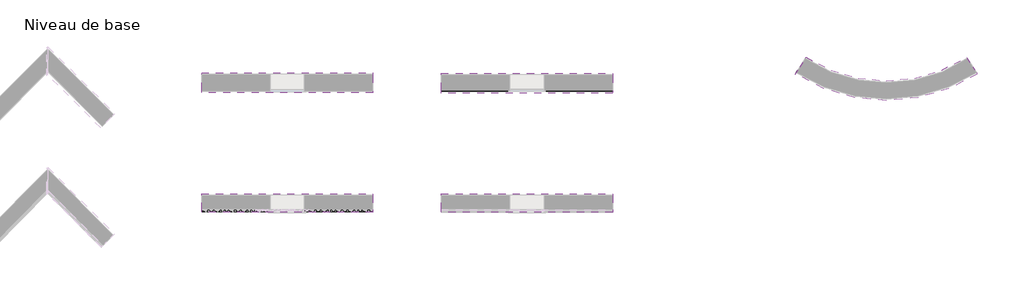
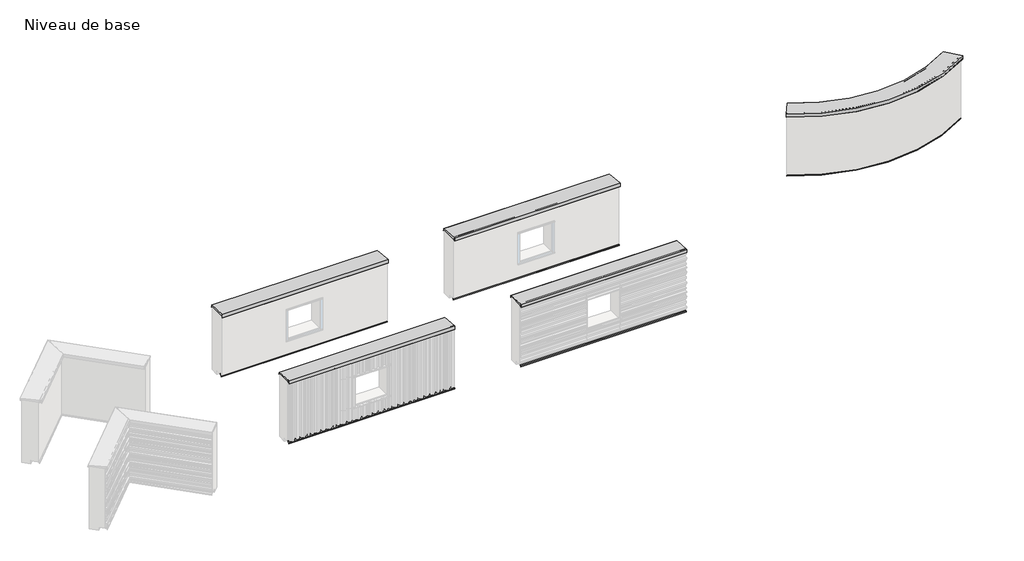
# One storey, part 12 of 12: 10 proxies.
"""IFC4 building model written with IfcOpenShell, lengths in millimetres."""

from ifc_helpers import new_model, si_unit, frame, origin, place, context, project, spatial, polyline, circle_curve, outline, extrude, faceted_brep, element, save
from ifc_brep_helpers import plane_surface, cylinder_surface, revolved_surface, advanced_brep

model = new_model("IFC4")

# Units and contexts
model_context = context("Model", 3, world=origin())
ifc_project = project(units=[si_unit("LENGTHUNIT", "METRE", prefix="MILLI")], contexts=[model_context])

# Site, building, storey
site = spatial("IfcSite", under=ifc_project)
building = spatial("IfcBuilding", under=site)
storey = spatial("IfcBuildingStorey", under=building, Name="Niveau de base", Elevation=0.0)

# Proxies
placement = place(None, origin())
element("IfcBuildingElementProxy", 1, Name="Wall Sweeps", at=placement, inside=storey, context=model_context, shape_type="SweptSolid", body=[
    extrude(outline(polyline([(44478.0286976, 1980.4303772), (44478.0286976, 2084.3696738), (45049.6644303, 2034.2673856), (45049.6644303, 1985.4349362), (45059.9781388, 1975.1212277), (45059.271032, 1974.4141209), (45048.6644303, 1985.0207227), (45048.6644303, 2033.3383964), (45017.7785953, 2036.0405569), (45017.7785953, 2000.0), (44525.7785953, 2000.0), (44525.7785953, 2079.176115), (44479.0261962, 2083.2664199), (44478.7991188, 1981.2007984), (44491.7000368, 1994.1017164), (44492.4071436, 1993.3946096), (44479.4429112, 1980.4303772), (44478.0286976, 1980.4303772)])), frame((15057.0295763, 0.0, 0.0), z_axis=(1.0, 0.0, 0.0), x_axis=(0.0, 1.0, 0.0)), (0.0, 0.0, 1.0), 5000.0),
])
element("IfcBuildingElementProxy", 2, Name="Wall Sweeps", at=placement, inside=storey, context=model_context, shape_type="Brep", body=[
    faceted_brep([(15057.0295763, 44585.7785953, 130.0), (15057.0295763, 44586.7785953, 130.0), (15057.0295763, 44586.7785953, 100.0), (15057.0295763, 44586.7785953, 99.4012185), (15057.0295763, 44535.7785953, 94.9392966), (15057.0295763, 44535.7785953, 62.75208), (15057.0295763, 44534.7785953, 62.75208), (15057.0295763, 44534.7785953, 95.5380782), (15057.0295763, 44585.7785953, 100.0), (20057.0295763, 44585.7785953, 130.0), (20057.0295763, 44585.7785953, 100.0), (20057.0295763, 44534.7785953, 95.5380782), (20057.0295763, 44534.7785953, 62.75208), (20057.0295763, 44535.7785953, 62.75208), (20057.0295763, 44535.7785953, 94.9392966), (20057.0295763, 44586.7785953, 99.4012185), (20057.0295763, 44586.7785953, 100.0), (20057.0295763, 44586.7785953, 130.0)], [[[0, 1, 2, 3, 4, 5, 6, 7, 8]], [[9, 10, 11, 12, 13, 14, 15, 16, 17]], [[1, 0, 9, 17]], [[3, 2, 1, 17, 16, 15]], [[4, 3, 15, 14]], [[5, 4, 14, 13]], [[6, 5, 13, 12]], [[7, 6, 12, 11]], [[8, 7, 11, 10]], [[0, 8, 10, 9]]]),
])
element("IfcBuildingElementProxy", 3, Name="Wall Sweeps", at=placement, inside=storey, context=model_context, shape_type="AdvancedBrep", body=[
    advanced_brep(
    [(32398.6247846, 45024.3984741, 1980.4303772), (32398.6247846, 45024.3984741, 2084.3696738), (32706.8796636, 45505.7988692, 2034.2673856), (32706.8796636, 45505.7988692, 1985.4349362), (32712.4413365, 45514.4845113, 1975.1212277), (32712.0600288, 45513.8890246, 1974.4141209), (32706.340413, 45504.9567239, 1985.0207227), (32706.340413, 45504.9567239, 2033.3383964), (32689.6852098, 45478.9463604, 2036.0405569), (32689.6852098, 45478.9463604, 2000.0), (32424.3739428, 45064.6108302, 2000.0), (32424.3739428, 45064.6108302, 2079.176115), (32399.1626862, 45025.2385129, 2083.2664199), (32399.0402346, 45025.0472808, 1981.2007984), (32405.9970616, 45035.9117293, 1994.1017164), (32406.3783694, 45036.5072161, 1993.3946096), (32399.3874, 45025.5894475, 1980.4303772), (37715.434368, 45024.3984741, 1980.4303772), (37714.6717526, 45025.5894475, 1980.4303772), (37707.6807832, 45036.5072161, 1993.3946096), (37708.0620909, 45035.9117293, 1994.1017164), (37715.0189179, 45025.0472808, 1981.2007984), (37714.8964664, 45025.2385129, 2083.2664199), (37689.6852098, 45064.6108302, 2079.176115), (37689.6852098, 45064.6108302, 2000.0), (37424.3739428, 45478.9463604, 2000.0), (37424.3739428, 45478.9463604, 2036.0405569), (37407.7187395, 45504.9567239, 2033.3383964), (37407.7187395, 45504.9567239, 1985.0207227), (37401.9991238, 45513.8890246, 1974.4141209), (37401.6178161, 45514.4845113, 1975.1212277), (37407.179489, 45505.7988692, 1985.4349362), (37407.179489, 45505.7988692, 2034.2673856), (37715.434368, 45024.3984741, 2084.3696738)],
    [
        (0, 1),
        (1, 2),
        (2, 3),
        (3, 4),
        (4, 5),
        (5, 6),
        (6, 7),
        (7, 8),
        (8, 9),
        (9, 10),
        (10, 11),
        (11, 12),
        (12, 13),
        (13, 14),
        (14, 15),
        (15, 16),
        (16, 0),
        (17, 18),
        (18, 19),
        (19, 20),
        (20, 21),
        (21, 22),
        (22, 23),
        (23, 24),
        (24, 25),
        (25, 26),
        (26, 27),
        (27, 28),
        (28, 29),
        (29, 30),
        (30, 31),
        (31, 32),
        (32, 33),
        (33, 17),
        (33, 1, circle_curve(frame((35057.0295763, 49176.0184624, 2084.3696738), z_axis=(0.0, 0.0, -1.0), x_axis=(-0.5392505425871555, -0.8421453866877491, 0.0)), 4929.8138468)),
        (0, 17, circle_curve(frame((35057.0295763, 49176.0184624, 1980.4303772), z_axis=(0.0, 0.0, 1.0), x_axis=(-0.5392505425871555, -0.8421453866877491, 0.0)), 4929.8138468)),
        (32, 2, circle_curve(frame((35057.0295763, 49176.0184624, 2034.2673856), z_axis=(0.0, 0.0, -1.0), x_axis=(-0.5392505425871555, -0.8421453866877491, 0.0)), 4358.1781141)),
        (31, 3, circle_curve(frame((35057.0295763, 49176.0184624, 1985.4349362), z_axis=(0.0, 0.0, -1.0), x_axis=(-0.5392505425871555, -0.8421453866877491, 0.0)), 4358.1781141)),
        (30, 4, circle_curve(frame((35057.0295763, 49176.0184624, 1975.1212277), z_axis=(0.0, 0.0, -1.0), x_axis=(-0.5392505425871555, -0.8421453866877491, 0.0)), 4347.8644056)),
        (29, 5, circle_curve(frame((35057.0295763, 49176.0184624, 1974.4141209), z_axis=(0.0, 0.0, -1.0), x_axis=(-0.5392505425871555, -0.8421453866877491, 0.0)), 4348.5715124)),
        (28, 6, circle_curve(frame((35057.0295763, 49176.0184624, 1985.0207227), z_axis=(0.0, 0.0, -1.0), x_axis=(-0.5392505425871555, -0.8421453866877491, 0.0)), 4359.1781141)),
        (27, 7, circle_curve(frame((35057.0295763, 49176.0184624, 2033.3383964), z_axis=(0.0, 0.0, -1.0), x_axis=(-0.5392505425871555, -0.8421453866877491, 0.0)), 4359.1781141)),
        (26, 8, circle_curve(frame((35057.0295763, 49176.0184624, 2036.0405569), z_axis=(0.0, 0.0, -1.0), x_axis=(-0.5392505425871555, -0.8421453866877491, 0.0)), 4390.0639491)),
        (25, 9, circle_curve(frame((35057.0295763, 49176.0184624, 2000.0), z_axis=(0.0, 0.0, -1.0), x_axis=(-0.5392505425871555, -0.8421453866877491, 0.0)), 4390.0639491)),
        (24, 10, circle_curve(frame((35057.0295763, 49176.0184624, 2000.0), z_axis=(0.0, 0.0, -1.0), x_axis=(-0.5392505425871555, -0.8421453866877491, 0.0)), 4882.0639491)),
        (23, 11, circle_curve(frame((35057.0295763, 49176.0184624, 2079.176115), z_axis=(0.0, 0.0, -1.0), x_axis=(-0.5392505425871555, -0.8421453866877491, 0.0)), 4882.0639491)),
        (22, 12, circle_curve(frame((35057.0295763, 49176.0184624, 2083.2664199), z_axis=(0.0, 0.0, -1.0), x_axis=(-0.5392505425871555, -0.8421453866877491, 0.0)), 4928.8163482)),
        (21, 13, circle_curve(frame((35057.0295763, 49176.0184624, 1981.2007984), z_axis=(0.0, 0.0, -1.0), x_axis=(-0.5392505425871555, -0.8421453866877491, 0.0)), 4929.0434255)),
        (20, 14, circle_curve(frame((35057.0295763, 49176.0184624, 1994.1017164), z_axis=(0.0, 0.0, -1.0), x_axis=(-0.5392505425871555, -0.8421453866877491, 0.0)), 4916.1425076)),
        (19, 15, circle_curve(frame((35057.0295763, 49176.0184624, 1993.3946096), z_axis=(0.0, 0.0, -1.0), x_axis=(-0.5392505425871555, -0.8421453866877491, 0.0)), 4915.4354008)),
        (18, 16, circle_curve(frame((35057.0295763, 49176.0184624, 1980.4303772), z_axis=(0.0, 0.0, -1.0), x_axis=(-0.5392505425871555, -0.8421453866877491, 0.0)), 4928.3996332)),
    ],
    [
        plane_surface(frame((35057.0295763, 49176.0184624, 2000.0), z_axis=(-0.8421453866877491, 0.5392505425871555, 0.0), x_axis=(-0.5392505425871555, -0.8421453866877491, 0.0))),
        plane_surface(frame((35057.0295763, 49176.0184624, 2000.0), z_axis=(0.8421453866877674, 0.539250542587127, 0.0), x_axis=(0.539250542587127, -0.8421453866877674, 0.0))),
        cylinder_surface(frame((35057.0295763, 49176.0184624, 2000.0), z_axis=(0.0, 0.0, 1.0), x_axis=(-0.5392505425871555, -0.8421453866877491, 0.0)), 4929.8138468),
        revolved_surface(polyline([(32398.6247846, 45024.3984741, 2084.3696738), (32706.8796636, 45505.7988692, 2034.2673856)]), (35057.0295763, 49176.0184624, 2000.0), (0.0, 0.0, 1.0)),
        revolved_surface(polyline([(32706.87966358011, 45505.79886924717, 2034.2673856), (32706.87966358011, 45505.79886924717, 1985.4349362)]), (35057.0295763, 49176.0184624, 2000.0), (0.0, 0.0, 1.0)),
        revolved_surface(polyline([(32706.8796636, 45505.7988692, 1985.4349362), (32712.4413365, 45514.4845113, 1975.1212277)]), (35057.0295763, 49176.0184624, 2000.0), (0.0, 0.0, 1.0)),
        revolved_surface(polyline([(32712.4413365, 45514.4845113, 1975.1212277), (32712.0600288, 45513.8890246, 1974.4141209)]), (35057.0295763, 49176.0184624, 2000.0), (0.0, 0.0, 1.0)),
        revolved_surface(polyline([(32712.0600288, 45513.8890246, 1974.4141209), (32706.340413, 45504.9567239, 1985.0207227)]), (35057.0295763, 49176.0184624, 2000.0), (0.0, 0.0, 1.0)),
        cylinder_surface(frame((35057.0295763, 49176.0184624, 2000.0), z_axis=(0.0, 0.0, 1.0), x_axis=(-0.5392505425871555, -0.8421453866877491, 0.0)), 4359.1781141),
        revolved_surface(polyline([(32706.340413, 45504.9567239, 2033.3383964), (32689.6852098, 45478.9463604, 2036.0405569)]), (35057.0295763, 49176.0184624, 2000.0), (0.0, 0.0, 1.0)),
        revolved_surface(polyline([(32689.685209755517, 45478.946360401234, 2036.0405569), (32689.685209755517, 45478.946360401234, 2000.0)]), (35057.0295763, 49176.0184624, 2000.0), (0.0, 0.0, 1.0)),
        plane_surface(frame((35057.0295763, 49176.0184624, 2000.0), z_axis=(0.0, 0.0, -1.0), x_axis=(-0.5392505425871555, -0.8421453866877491, 0.0))),
        cylinder_surface(frame((35057.0295763, 49176.0184624, 2000.0), z_axis=(0.0, 0.0, 1.0), x_axis=(-0.5392505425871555, -0.8421453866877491, 0.0)), 4882.0639491),
        revolved_surface(polyline([(32424.3739428, 45064.6108302, 2079.176115), (32399.1626862, 45025.2385129, 2083.2664199)]), (35057.0295763, 49176.0184624, 2000.0), (0.0, 0.0, 1.0)),
        revolved_surface(polyline([(32399.1626862, 45025.2385129, 2083.2664199), (32399.0402346, 45025.0472808, 1981.2007984)]), (35057.0295763, 49176.0184624, 2000.0), (0.0, 0.0, 1.0)),
        revolved_surface(polyline([(32399.0402346, 45025.0472808, 1981.2007984), (32405.9970616, 45035.9117293, 1994.1017164)]), (35057.0295763, 49176.0184624, 2000.0), (0.0, 0.0, 1.0)),
        revolved_surface(polyline([(32405.9970616, 45035.9117293, 1994.1017164), (32406.3783694, 45036.5072161, 1993.3946096)]), (35057.0295763, 49176.0184624, 2000.0), (0.0, 0.0, 1.0)),
        revolved_surface(polyline([(32406.3783694, 45036.5072161, 1993.3946096), (32399.3874, 45025.5894475, 1980.4303772)]), (35057.0295763, 49176.0184624, 2000.0), (0.0, 0.0, 1.0)),
        plane_surface(frame((35057.0295763, 49176.0184624, 1980.4303772), z_axis=(0.0, 0.0, -1.0), x_axis=(-0.5392505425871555, -0.8421453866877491, 0.0))),
    ],
    [
        (0, [[1, 2, 3, 4, 5, 6, 7, 8, 9, 10, 11, 12, 13, 14, 15, 16, 17]]),
        (1, [[18, 19, 20, 21, 22, 23, 24, 25, 26, 27, 28, 29, 30, 31, 32, 33, 34]]),
        (2, [[35, -1, 36, -34]]),
        (3, [[37, -2, -35, -33]]),
        (4, [[38, -3, -37, -32]]),
        (5, [[39, -4, -38, -31]]),
        (6, [[40, -5, -39, -30]]),
        (7, [[41, -6, -40, -29]]),
        (8, [[42, -7, -41, -28]]),
        (9, [[43, -8, -42, -27]]),
        (10, [[44, -9, -43, -26]]),
        (11, [[45, -10, -44, -25]]),
        (12, [[46, -11, -45, -24]]),
        (13, [[47, -12, -46, -23]]),
        (14, [[48, -13, -47, -22]]),
        (15, [[49, -14, -48, -21]]),
        (16, [[50, -15, -49, -20]]),
        (17, [[51, -16, -50, -19]]),
        (18, [[-36, -17, -51, -18]]),
    ],
),
])
element("IfcBuildingElementProxy", 4, Name="Wall Sweeps", at=placement, inside=storey, context=model_context, shape_type="AdvancedBrep", body=[
    advanced_brep(
    [(32456.7289754, 45115.1395534, 130.0), (32457.2682259, 45115.9816988, 130.0), (32457.2682259, 45115.9816988, 100.0), (32457.2682259, 45115.9816988, 99.4012185), (32429.7664482, 45073.032284, 94.9392966), (32429.7664482, 45073.032284, 62.75208), (32429.2271977, 45072.1901386, 62.75208), (32429.2271977, 45072.1901386, 95.5380782), (32456.7289754, 45115.1395534, 100.0), (37657.3301772, 45115.1395534, 130.0), (37657.3301772, 45115.1395534, 100.0), (37684.8319549, 45072.1901386, 95.5380782), (37684.8319549, 45072.1901386, 62.75208), (37684.2927043, 45073.032284, 62.75208), (37684.2927043, 45073.032284, 94.9392966), (37656.7909267, 45115.9816988, 99.4012185), (37656.7909267, 45115.9816988, 100.0), (37656.7909267, 45115.9816988, 130.0)],
    [
        (0, 1),
        (1, 2),
        (2, 3),
        (3, 4),
        (4, 5),
        (5, 6),
        (6, 7),
        (7, 8),
        (8, 0),
        (9, 10),
        (10, 11),
        (11, 12),
        (12, 13),
        (13, 14),
        (14, 15),
        (15, 16),
        (16, 17),
        (17, 9),
        (17, 1, circle_curve(frame((35057.0295763, 49176.0184624, 130.0), z_axis=(0.0, 0.0, -1.0), x_axis=(-0.5392505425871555, -0.8421453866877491, 0.0)), 4821.0639491)),
        (0, 9, circle_curve(frame((35057.0295763, 49176.0184624, 130.0), z_axis=(0.0, 0.0, 1.0), x_axis=(-0.5392505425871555, -0.8421453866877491, 0.0)), 4822.0639491)),
        (15, 3, circle_curve(frame((35057.0295763, 49176.0184624, 99.4012185), z_axis=(0.0, 0.0, -1.0), x_axis=(-0.5392505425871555, -0.8421453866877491, 0.0)), 4821.0639491)),
        (14, 4, circle_curve(frame((35057.0295763, 49176.0184624, 94.9392966), z_axis=(0.0, 0.0, -1.0), x_axis=(-0.5392505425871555, -0.8421453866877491, 0.0)), 4872.0639491)),
        (13, 5, circle_curve(frame((35057.0295763, 49176.0184624, 62.75208), z_axis=(0.0, 0.0, -1.0), x_axis=(-0.5392505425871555, -0.8421453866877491, 0.0)), 4872.0639491)),
        (12, 6, circle_curve(frame((35057.0295763, 49176.0184624, 62.75208), z_axis=(0.0, 0.0, -1.0), x_axis=(-0.5392505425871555, -0.8421453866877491, 0.0)), 4873.0639491)),
        (11, 7, circle_curve(frame((35057.0295763, 49176.0184624, 95.5380782), z_axis=(0.0, 0.0, -1.0), x_axis=(-0.5392505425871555, -0.8421453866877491, 0.0)), 4873.0639491)),
        (10, 8, circle_curve(frame((35057.0295763, 49176.0184624, 100.0), z_axis=(0.0, 0.0, -1.0), x_axis=(-0.5392505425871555, -0.8421453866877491, 0.0)), 4822.0639491)),
    ],
    [
        plane_surface(frame((35057.0295763, 49176.0184624, 100.0), z_axis=(-0.8421453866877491, 0.5392505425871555, 0.0), x_axis=(-0.5392505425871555, -0.8421453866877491, 0.0))),
        plane_surface(frame((35057.0295763, 49176.0184624, 100.0), z_axis=(0.8421453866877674, 0.539250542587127, 0.0), x_axis=(0.539250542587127, -0.8421453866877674, 0.0))),
        plane_surface(frame((35057.0295763, 49176.0184624, 130.0), z_axis=(0.0, 0.0, 1.0), x_axis=(-0.5392505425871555, -0.8421453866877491, 0.0))),
        revolved_surface(polyline([(32457.268225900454, 45115.98169873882, 130.0), (32457.268225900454, 45115.98169873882, 99.4012185)]), (35057.0295763, 49176.0184624, 100.0), (0.0, 0.0, 1.0)),
        revolved_surface(polyline([(32457.2682259, 45115.9816988, 99.4012185), (32429.7664482, 45073.032284, 94.9392966)]), (35057.0295763, 49176.0184624, 100.0), (0.0, 0.0, 1.0)),
        revolved_surface(polyline([(32429.766448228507, 45073.03228401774, 94.9392966), (32429.766448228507, 45073.03228401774, 62.75208)]), (35057.0295763, 49176.0184624, 100.0), (0.0, 0.0, 1.0)),
        plane_surface(frame((35057.0295763, 49176.0184624, 62.75208), z_axis=(0.0, 0.0, -1.0), x_axis=(-0.5392505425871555, -0.8421453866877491, 0.0))),
        cylinder_surface(frame((35057.0295763, 49176.0184624, 100.0), z_axis=(0.0, 0.0, 1.0), x_axis=(-0.5392505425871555, -0.8421453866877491, 0.0)), 4873.0639491),
        revolved_surface(polyline([(32429.2271977, 45072.1901386, 95.5380782), (32456.7289754, 45115.1395534, 100.0)]), (35057.0295763, 49176.0184624, 100.0), (0.0, 0.0, 1.0)),
        cylinder_surface(frame((35057.0295763, 49176.0184624, 100.0), z_axis=(0.0, 0.0, 1.0), x_axis=(-0.5392505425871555, -0.8421453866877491, 0.0)), 4822.0639491),
    ],
    [
        (0, [[1, 2, 3, 4, 5, 6, 7, 8, 9]]),
        (1, [[10, 11, 12, 13, 14, 15, 16, 17, 18]]),
        (2, [[19, -1, 20, -18]]),
        (3, [[21, -3, -2, -19, -17, -16]]),
        (4, [[22, -4, -21, -15]]),
        (5, [[23, -5, -22, -14]]),
        (6, [[24, -6, -23, -13]]),
        (7, [[25, -7, -24, -12]]),
        (8, [[26, -8, -25, -11]]),
        (9, [[-20, -9, -26, -10]]),
    ],
),
])
element("IfcBuildingElementProxy", 5, Name="Wall Sweeps", at=placement, inside=storey, context=model_context, shape_type="Brep", body=[
    faceted_brep([(22057.0295763, 44466.5286976, 1980.4303772), (22057.0295763, 44466.5286976, 2084.3696738), (22057.0295763, 45038.1644303, 2034.2673856), (22057.0295763, 45038.1644303, 1985.4349362), (22057.0295763, 45048.4781388, 1975.1212277), (22057.0295763, 45047.771032, 1974.4141209), (22057.0295763, 45037.1644303, 1985.0207227), (22057.0295763, 45037.1644303, 2033.3383964), (22057.0295763, 45006.2785953, 2036.0405569), (22057.0295763, 45006.2785953, 2000.0), (22057.0295763, 44537.2785953, 2000.0), (22057.0295763, 44514.2785953, 2000.0), (22057.0295763, 44514.2785953, 2079.176115), (22057.0295763, 44467.5261962, 2083.2664199), (22057.0295763, 44467.2991188, 1981.2007984), (22057.0295763, 44480.2000368, 1994.1017164), (22057.0295763, 44480.9071436, 1993.3946096), (22057.0295763, 44467.9429112, 1980.4303772), (27057.0295763, 44466.5286976, 1980.4303772), (27057.0295763, 44467.9429112, 1980.4303772), (27057.0295763, 44480.9071436, 1993.3946096), (27057.0295763, 44480.2000368, 1994.1017164), (27057.0295763, 44467.2991188, 1981.2007984), (27057.0295763, 44467.5261962, 2083.2664199), (27057.0295763, 44514.2785953, 2079.176115), (27057.0295763, 44514.2785953, 2000.0), (27057.0295763, 44537.2785953, 2000.0), (27057.0295763, 45006.2785953, 2000.0), (27057.0295763, 45006.2785953, 2036.0405569), (27057.0295763, 45037.1644303, 2033.3383964), (27057.0295763, 45037.1644303, 1985.0207227), (27057.0295763, 45047.771032, 1974.4141209), (27057.0295763, 45048.4781388, 1975.1212277), (27057.0295763, 45038.1644303, 1985.4349362), (27057.0295763, 45038.1644303, 2034.2673856), (27057.0295763, 44466.5286976, 2084.3696738)], [[[0, 1, 2, 3, 4, 5, 6, 7, 8, 9, 10, 11, 12, 13, 14, 15, 16, 17]], [[18, 19, 20, 21, 22, 23, 24, 25, 26, 27, 28, 29, 30, 31, 32, 33, 34, 35]], [[1, 0, 18, 35]], [[2, 1, 35, 34]], [[3, 2, 34, 33]], [[4, 3, 33, 32]], [[5, 4, 32, 31]], [[6, 5, 31, 30]], [[7, 6, 30, 29]], [[8, 7, 29, 28]], [[9, 8, 28, 27]], [[11, 10, 9, 27, 26, 25]], [[12, 11, 25, 24]], [[13, 12, 24, 23]], [[14, 13, 23, 22]], [[15, 14, 22, 21]], [[16, 15, 21, 20]], [[17, 16, 20, 19]], [[0, 17, 19, 18]]]),
])
element("IfcBuildingElementProxy", 6, Name="Wall Sweeps", at=placement, inside=storey, context=model_context, shape_type="Brep", body=[
    faceted_brep([(22057.0295763, 44574.2785953, 130.0), (22057.0295763, 44575.2785953, 130.0), (22057.0295763, 44575.2785953, 100.0), (22057.0295763, 44575.2785953, 99.4012185), (22057.0295763, 44524.2785953, 94.9392966), (22057.0295763, 44524.2785953, 62.75208), (22057.0295763, 44523.2785953, 62.75208), (22057.0295763, 44523.2785953, 95.5380782), (22057.0295763, 44574.2785953, 100.0), (27057.0295763, 44574.2785953, 130.0), (27057.0295763, 44574.2785953, 100.0), (27057.0295763, 44523.2785953, 95.5380782), (27057.0295763, 44523.2785953, 62.75208), (27057.0295763, 44524.2785953, 62.75208), (27057.0295763, 44524.2785953, 94.9392966), (27057.0295763, 44575.2785953, 99.4012185), (27057.0295763, 44575.2785953, 100.0), (27057.0295763, 44575.2785953, 130.0)], [[[0, 1, 2, 3, 4, 5, 6, 7, 8]], [[9, 10, 11, 12, 13, 14, 15, 16, 17]], [[1, 0, 9, 17]], [[3, 2, 1, 17, 16, 15]], [[4, 3, 15, 14]], [[5, 4, 14, 13]], [[6, 5, 13, 12]], [[7, 6, 12, 11]], [[8, 7, 11, 10]], [[0, 8, 10, 9]]]),
])
element("IfcBuildingElementProxy", 7, Name="Wall Sweeps", at=placement, inside=storey, context=model_context, shape_type="Brep", body=[
    faceted_brep([(15057.0295763, 41055.7785953, 130.0), (15057.0295763, 41056.7785953, 130.0), (15057.0295763, 41056.7785953, 100.0), (15057.0295763, 41056.7785953, 99.4012185), (15057.0295763, 41005.7785953, 94.9392966), (15057.0295763, 41005.7785953, 62.75208), (15057.0295763, 41004.7785953, 62.75208), (15057.0295763, 41004.7785953, 95.5380782), (15057.0295763, 41055.7785953, 100.0), (20057.0295763, 41055.7785953, 130.0), (20057.0295763, 41055.7785953, 100.0), (20057.0295763, 41004.7785953, 95.5380782), (20057.0295763, 41004.7785953, 62.75208), (20057.0295763, 41005.7785953, 62.75208), (20057.0295763, 41005.7785953, 94.9392966), (20057.0295763, 41056.7785953, 99.4012185), (20057.0295763, 41056.7785953, 100.0), (20057.0295763, 41056.7785953, 130.0)], [[[0, 1, 2, 3, 4, 5, 6, 7, 8]], [[9, 10, 11, 12, 13, 14, 15, 16, 17]], [[1, 0, 9, 17]], [[3, 2, 1, 17, 16, 15]], [[4, 3, 15, 14]], [[5, 4, 14, 13]], [[6, 5, 13, 12]], [[7, 6, 12, 11]], [[8, 7, 11, 10]], [[0, 8, 10, 9]]]),
])
element("IfcBuildingElementProxy", 8, Name="Wall Sweeps", at=placement, inside=storey, context=model_context, shape_type="Brep", body=[
    faceted_brep([(15057.0295763, 40985.0286976, 1979.18035), (15057.0295763, 40985.0286976, 2079.18035), (15057.0295763, 41519.6644303, 2034.4180235), (15057.0295763, 41519.6644303, 1984.5597829), (15057.0295763, 41530.271032, 1973.9531812), (15057.0295763, 41529.5639252, 1973.2460744), (15057.0295763, 41518.6644303, 1984.1455693), (15057.0295763, 41518.6644303, 2033.5391604), (15057.0295763, 41487.7785953, 2036.2413208), (15057.0295763, 41487.7785953, 2000.0), (15057.0295763, 41055.7785953, 2000.0), (15057.0295763, 41032.7785953, 2000.0), (15057.0295763, 41032.7785953, 2074.0364235), (15057.0295763, 40986.0263088, 2078.1267185), (15057.0295763, 40985.8034942, 1979.9551466), (15057.0295763, 40996.3424061, 1990.4940584), (15057.0295763, 40997.0495129, 1989.7869517), (15057.0295763, 40986.4429112, 1979.18035), (20057.0295763, 40985.0286976, 1979.18035), (20057.0295763, 40986.4429112, 1979.18035), (20057.0295763, 40997.0495129, 1989.7869517), (20057.0295763, 40996.3424061, 1990.4940584), (20057.0295763, 40985.8034942, 1979.9551466), (20057.0295763, 40986.0263088, 2078.1267185), (20057.0295763, 41032.7785953, 2074.0364235), (20057.0295763, 41032.7785953, 2000.0), (20057.0295763, 41055.7785953, 2000.0), (20057.0295763, 41487.7785953, 2000.0), (20057.0295763, 41487.7785953, 2036.2413208), (20057.0295763, 41518.6644303, 2033.5391604), (20057.0295763, 41518.6644303, 1984.1455693), (20057.0295763, 41529.5639252, 1973.2460744), (20057.0295763, 41530.271032, 1973.9531812), (20057.0295763, 41519.6644303, 1984.5597829), (20057.0295763, 41519.6644303, 2034.4180235), (20057.0295763, 40985.0286976, 2079.18035)], [[[0, 1, 2, 3, 4, 5, 6, 7, 8, 9, 10, 11, 12, 13, 14, 15, 16, 17]], [[18, 19, 20, 21, 22, 23, 24, 25, 26, 27, 28, 29, 30, 31, 32, 33, 34, 35]], [[1, 0, 18, 35]], [[2, 1, 35, 34]], [[3, 2, 34, 33]], [[4, 3, 33, 32]], [[5, 4, 32, 31]], [[6, 5, 31, 30]], [[7, 6, 30, 29]], [[8, 7, 29, 28]], [[9, 8, 28, 27]], [[11, 10, 9, 27, 26, 25]], [[12, 11, 25, 24]], [[13, 12, 24, 23]], [[14, 13, 23, 22]], [[15, 14, 22, 21]], [[16, 15, 21, 20]], [[17, 16, 20, 19]], [[0, 17, 19, 18]]]),
])
element("IfcBuildingElementProxy", 9, Name="Wall Sweeps", at=placement, inside=storey, context=model_context, shape_type="Brep", body=[
    faceted_brep([(22057.0295763, 41055.7785953, 130.0), (22057.0295763, 41056.7785953, 130.0), (22057.0295763, 41056.7785953, 100.0), (22057.0295763, 41056.7785953, 99.4012185), (22057.0295763, 41005.7785953, 94.9392966), (22057.0295763, 41005.7785953, 62.75208), (22057.0295763, 41004.7785953, 62.75208), (22057.0295763, 41004.7785953, 95.5380782), (22057.0295763, 41055.7785953, 100.0), (27057.0295763, 41055.7785953, 130.0), (27057.0295763, 41055.7785953, 100.0), (27057.0295763, 41004.7785953, 95.5380782), (27057.0295763, 41004.7785953, 62.75208), (27057.0295763, 41005.7785953, 62.75208), (27057.0295763, 41005.7785953, 94.9392966), (27057.0295763, 41056.7785953, 99.4012185), (27057.0295763, 41056.7785953, 100.0), (27057.0295763, 41056.7785953, 130.0)], [[[0, 1, 2, 3, 4, 5, 6, 7, 8]], [[9, 10, 11, 12, 13, 14, 15, 16, 17]], [[1, 0, 9, 17]], [[3, 2, 1, 17, 16, 15]], [[4, 3, 15, 14]], [[5, 4, 14, 13]], [[6, 5, 13, 12]], [[7, 6, 12, 11]], [[8, 7, 11, 10]], [[0, 8, 10, 9]]]),
])
element("IfcBuildingElementProxy", 10, Name="Wall Sweeps", at=placement, inside=storey, context=model_context, shape_type="Brep", body=[
    faceted_brep([(22057.0295763, 40985.0286976, 1979.18035), (22057.0295763, 40985.0286976, 2079.18035), (22057.0295763, 41519.6644303, 2034.4180235), (22057.0295763, 41519.6644303, 1984.5597829), (22057.0295763, 41530.271032, 1973.9531812), (22057.0295763, 41529.5639252, 1973.2460744), (22057.0295763, 41518.6644303, 1984.1455693), (22057.0295763, 41518.6644303, 2033.5391604), (22057.0295763, 41487.7785953, 2036.2413208), (22057.0295763, 41487.7785953, 2000.0), (22057.0295763, 41055.7785953, 2000.0), (22057.0295763, 41032.7785953, 2000.0), (22057.0295763, 41032.7785953, 2074.0364235), (22057.0295763, 40986.0263088, 2078.1267185), (22057.0295763, 40985.8034942, 1979.9551466), (22057.0295763, 40996.3424061, 1990.4940584), (22057.0295763, 40997.0495129, 1989.7869517), (22057.0295763, 40986.4429112, 1979.18035), (27057.0295763, 40985.0286976, 1979.18035), (27057.0295763, 40986.4429112, 1979.18035), (27057.0295763, 40997.0495129, 1989.7869517), (27057.0295763, 40996.3424061, 1990.4940584), (27057.0295763, 40985.8034942, 1979.9551466), (27057.0295763, 40986.0263088, 2078.1267185), (27057.0295763, 41032.7785953, 2074.0364235), (27057.0295763, 41032.7785953, 2000.0), (27057.0295763, 41055.7785953, 2000.0), (27057.0295763, 41487.7785953, 2000.0), (27057.0295763, 41487.7785953, 2036.2413208), (27057.0295763, 41518.6644303, 2033.5391604), (27057.0295763, 41518.6644303, 1984.1455693), (27057.0295763, 41529.5639252, 1973.2460744), (27057.0295763, 41530.271032, 1973.9531812), (27057.0295763, 41519.6644303, 1984.5597829), (27057.0295763, 41519.6644303, 2034.4180235), (27057.0295763, 40985.0286976, 2079.18035)], [[[0, 1, 2, 3, 4, 5, 6, 7, 8, 9, 10, 11, 12, 13, 14, 15, 16, 17]], [[18, 19, 20, 21, 22, 23, 24, 25, 26, 27, 28, 29, 30, 31, 32, 33, 34, 35]], [[1, 0, 18, 35]], [[2, 1, 35, 34]], [[3, 2, 34, 33]], [[4, 3, 33, 32]], [[5, 4, 32, 31]], [[6, 5, 31, 30]], [[7, 6, 30, 29]], [[8, 7, 29, 28]], [[9, 8, 28, 27]], [[11, 10, 9, 27, 26, 25]], [[12, 11, 25, 24]], [[13, 12, 24, 23]], [[14, 13, 23, 22]], [[15, 14, 22, 21]], [[16, 15, 21, 20]], [[17, 16, 20, 19]], [[0, 17, 19, 18]]]),
])

save(model, "model.ifc")
